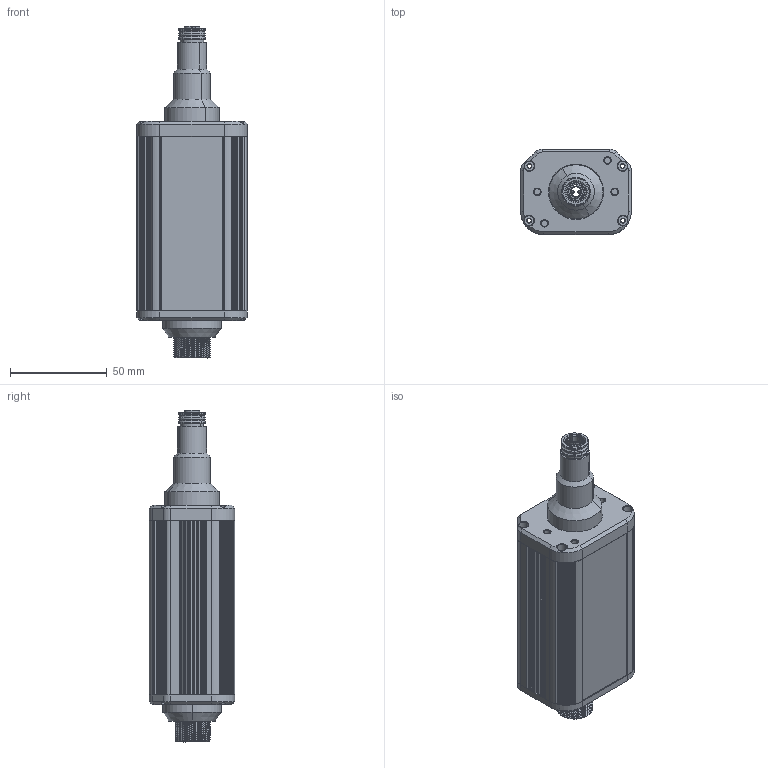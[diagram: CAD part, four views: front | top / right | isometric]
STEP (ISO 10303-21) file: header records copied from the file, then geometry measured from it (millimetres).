
FILE_DESCRIPTION (( 'STEP AP203' ), '1' );
FILE_NAME ('ZEDA-DE-MA5-0050.STEP', '2026-06-04T03:23:34', ( 'Windows User' ), ( 'P R C' ), 'SwSTEP 2.0', 'SolidWorks 2025', '' );
FILE_SCHEMA (( 'CONFIG_CONTROL_DESIGN' ));
Products named in the file (1): ZEDA-DE-MA5-0050
Bounding box: 57.2 x 44.2 x 171.65 mm (x, y, z)
Surface area: 38205 mm2 (no closed solid volume)
Topology: 0 solids, 19 shells, 528 faces, 1624 edges, 1098 vertices
Faces by surface type: cylinder 314, cone 79, plane 72, bspline 37, torus 26
Entity records: 36124 total; most frequent: CARTESIAN_POINT 21875, DIRECTION 3146, ORIENTED_EDGE 2763, EDGE_CURVE 1624, AXIS2_PLACEMENT_3D 1286, VERTEX_POINT 1098, CIRCLE 794, LINE 574
